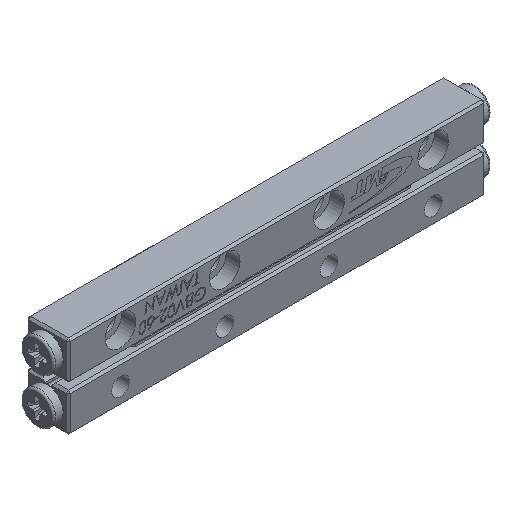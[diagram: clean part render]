
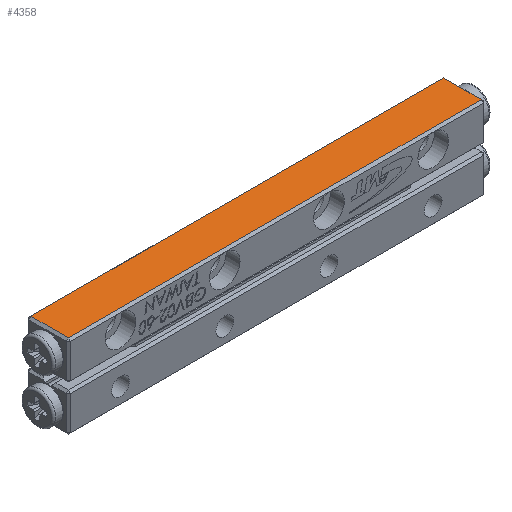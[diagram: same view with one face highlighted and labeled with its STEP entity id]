
A CAD part, isometric view. The second image highlights one B-rep face of the part: STEP entity #4358.
In plain terms, the highlighted planar face has unit normal (0, 0, 1) as drawn and (0, 0, -1) by its records, which use the part's own axes.
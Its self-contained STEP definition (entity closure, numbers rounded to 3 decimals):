
#211 = CARTESIAN_POINT ( 'NONE',  ( -29.7, 2.7, 0. ) ) ;
#320 = DIRECTION ( 'NONE',  ( 1., 0., 0. ) ) ;
#928 = VECTOR ( 'NONE', #6781, 1000. ) ;
#2431 = LINE ( 'NONE', #7807, #8837 ) ;
#2506 = DIRECTION ( 'NONE',  ( 0., -1., 0. ) ) ;
#2794 = LINE ( 'NONE', #10548, #5240 ) ;
#2897 = VERTEX_POINT ( 'NONE', #7614 ) ;
#3664 = VERTEX_POINT ( 'NONE', #10416 ) ;
#4275 = LINE ( 'NONE', #8551, #12102 ) ;
#4358 = ADVANCED_FACE ( 'NONE', ( #9859 ), #12031, .F. ) ;
#4412 = LINE ( 'NONE', #13243, #928 ) ;
#4573 = AXIS2_PLACEMENT_3D ( 'NONE', #10974, #12098, #2506 ) ;
#5118 = CARTESIAN_POINT ( 'NONE',  ( 29.7, -2.7, 0. ) ) ;
#5129 = EDGE_CURVE ( 'NONE', #3664, #5694, #2794, .T. ) ;
#5240 = VECTOR ( 'NONE', #6194, 1000. ) ;
#5694 = VERTEX_POINT ( 'NONE', #5118 ) ;
#6194 = DIRECTION ( 'NONE',  ( 0., -1., 0. ) ) ;
#6781 = DIRECTION ( 'NONE',  ( -1., 0., 0. ) ) ;
#7554 = EDGE_CURVE ( 'NONE', #11260, #3664, #2431, .T. ) ;
#7614 = CARTESIAN_POINT ( 'NONE',  ( -29.7, -2.7, 0. ) ) ;
#7807 = CARTESIAN_POINT ( 'NONE',  ( 30., 2.7, 0. ) ) ;
#8534 = ORIENTED_EDGE ( 'NONE', *, *, #7554, .T. ) ;
#8551 = CARTESIAN_POINT ( 'NONE',  ( -29.7, 3., 0. ) ) ;
#8837 = VECTOR ( 'NONE', #320, 1000. ) ;
#9286 = EDGE_CURVE ( 'NONE', #5694, #2897, #4412, .T. ) ;
#9859 = FACE_OUTER_BOUND ( 'NONE', #12849, .T. ) ;
#10416 = CARTESIAN_POINT ( 'NONE',  ( 29.7, 2.7, 0. ) ) ;
#10548 = CARTESIAN_POINT ( 'NONE',  ( 29.7, -3., 0. ) ) ;
#10591 = ORIENTED_EDGE ( 'NONE', *, *, #11146, .T. ) ;
#10974 = CARTESIAN_POINT ( 'NONE',  ( 30., 3., 0. ) ) ;
#11146 = EDGE_CURVE ( 'NONE', #2897, #11260, #4275, .T. ) ;
#11260 = VERTEX_POINT ( 'NONE', #211 ) ;
#11710 = DIRECTION ( 'NONE',  ( 0., 1., 0. ) ) ;
#12031 = PLANE ( 'NONE',  #4573 ) ;
#12098 = DIRECTION ( 'NONE',  ( 0., 0., 1. ) ) ;
#12102 = VECTOR ( 'NONE', #11710, 1000. ) ;
#12340 = ORIENTED_EDGE ( 'NONE', *, *, #9286, .T. ) ;
#12849 = EDGE_LOOP ( 'NONE', ( #13309, #12340, #10591, #8534 ) ) ;
#13243 = CARTESIAN_POINT ( 'NONE',  ( 30., -2.7, 0. ) ) ;
#13309 = ORIENTED_EDGE ( 'NONE', *, *, #5129, .T. ) ;
